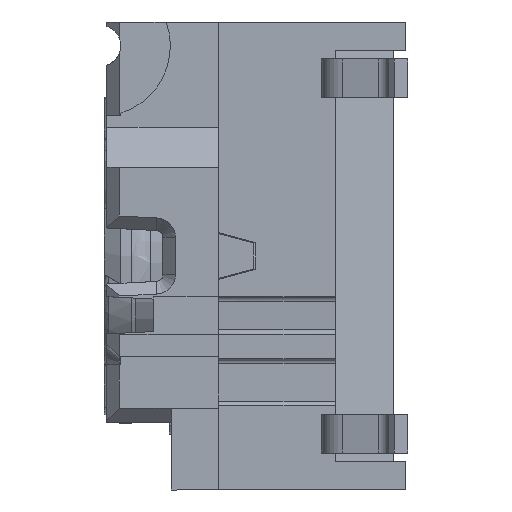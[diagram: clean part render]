
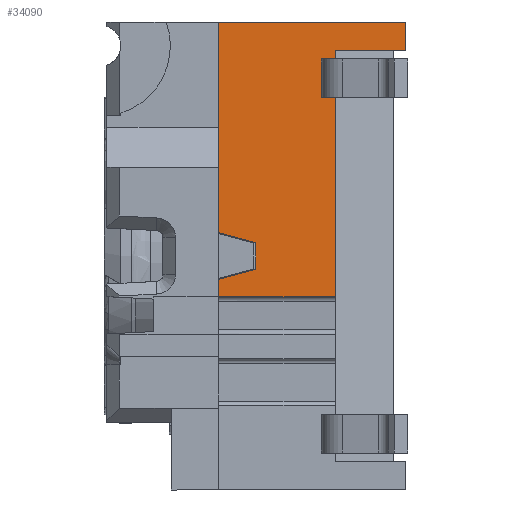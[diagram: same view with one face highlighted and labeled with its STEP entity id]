
A CAD part, left-side view. The second image highlights one B-rep face of the part: STEP entity #34090.
In plain terms, the highlighted planar face has unit normal (-1, 0, 0).
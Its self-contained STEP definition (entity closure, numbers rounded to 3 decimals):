
#33492=CARTESIAN_POINT('',(-5.,-0.286,0.8));
#33493=VERTEX_POINT('',#33492);
#33500=CARTESIAN_POINT('',(-5.,0.286,0.8));
#33501=VERTEX_POINT('',#33500);
#33502=CARTESIAN_POINT('',(-5.,0.286,0.8));
#33503=DIRECTION('',(0.0,-1.0,0.0));
#33504=VECTOR('',#33503,0.571);
#33505=LINE('',#33502,#33504);
#33506=EDGE_CURVE('',#33501,#33493,#33505,.T.);
#33595=CARTESIAN_POINT('',(-5.0,0.5,0.0));
#33596=VERTEX_POINT('',#33595);
#33603=CARTESIAN_POINT('',(-5.,5.0,0.0));
#33604=VERTEX_POINT('',#33603);
#33605=CARTESIAN_POINT('',(-5.0,0.5,0.0));
#33606=DIRECTION('',(0.0,1.0,0.0));
#33607=VECTOR('',#33606,4.5);
#33608=LINE('',#33605,#33607);
#33609=EDGE_CURVE('',#33596,#33604,#33608,.T.);
#33815=CARTESIAN_POINT('',(-5.,3.39,2.2));
#33816=VERTEX_POINT('',#33815);
#33823=CARTESIAN_POINT('',(-5.,3.39,2.5));
#33824=VERTEX_POINT('',#33823);
#33825=CARTESIAN_POINT('',(-5.,3.39,2.5));
#33826=DIRECTION('',(0.0,0.0,-1.0));
#33827=VECTOR('',#33826,0.3);
#33828=LINE('',#33825,#33827);
#33829=EDGE_CURVE('',#33824,#33816,#33828,.T.);
#33853=CARTESIAN_POINT('',(-5.,4.21,2.2));
#33854=VERTEX_POINT('',#33853);
#33861=CARTESIAN_POINT('',(-5.,3.39,2.2));
#33862=DIRECTION('',(0.0,1.0,0.0));
#33863=VECTOR('',#33862,0.82);
#33864=LINE('',#33861,#33863);
#33865=EDGE_CURVE('',#33816,#33854,#33864,.T.);
#33884=CARTESIAN_POINT('',(-5.,4.21,2.5));
#33885=VERTEX_POINT('',#33884);
#33892=CARTESIAN_POINT('',(-5.,4.21,2.2));
#33893=DIRECTION('',(0.0,0.0,1.0));
#33894=VECTOR('',#33893,0.3);
#33895=LINE('',#33892,#33894);
#33896=EDGE_CURVE('',#33854,#33885,#33895,.T.);
#33932=CARTESIAN_POINT('',(-5.0,-0.87,2.5));
#33933=VERTEX_POINT('',#33932);
#33934=CARTESIAN_POINT('',(-5.,-0.87,2.5));
#33935=DIRECTION('',(0.0,1.0,0.0));
#33936=VECTOR('',#33935,4.26);
#33937=LINE('',#33934,#33936);
#33938=EDGE_CURVE('',#33933,#33824,#33937,.T.);
#34019=CARTESIAN_POINT('',(-5.,-5.,0.0));
#34020=DIRECTION('',(-1.0,0.0,0.0));
#34021=DIRECTION('',(0.0,0.0,1.0));
#34022=AXIS2_PLACEMENT_3D('',#34019,#34020,#34021);
#34023=PLANE('',#34022);
#34024=ORIENTED_EDGE('',*,*,#33829,.T.);
#34025=ORIENTED_EDGE('',*,*,#33865,.T.);
#34026=ORIENTED_EDGE('',*,*,#33896,.T.);
#34027=CARTESIAN_POINT('',(-5.0,4.4,2.5));
#34028=VERTEX_POINT('',#34027);
#34029=CARTESIAN_POINT('',(-5.,4.21,2.5));
#34030=DIRECTION('',(0.0,1.0,0.0));
#34031=VECTOR('',#34030,0.19);
#34032=LINE('',#34029,#34031);
#34033=EDGE_CURVE('',#33885,#34028,#34032,.T.);
#34034=ORIENTED_EDGE('',*,*,#34033,.T.);
#34035=CARTESIAN_POINT('',(-5.,4.4,4.0));
#34036=VERTEX_POINT('',#34035);
#34037=CARTESIAN_POINT('',(-5.,4.4,2.5));
#34038=DIRECTION('',(0.0,0.0,1.0));
#34039=VECTOR('',#34038,1.5);
#34040=LINE('',#34037,#34039);
#34041=EDGE_CURVE('',#34028,#34036,#34040,.T.);
#34042=ORIENTED_EDGE('',*,*,#34041,.T.);
#34043=CARTESIAN_POINT('',(-5.,5.,4.0));
#34044=VERTEX_POINT('',#34043);
#34045=CARTESIAN_POINT('',(-5.,4.4,4.0));
#34046=DIRECTION('',(0.0,1.0,0.0));
#34047=VECTOR('',#34046,0.6);
#34048=LINE('',#34045,#34047);
#34049=EDGE_CURVE('',#34036,#34044,#34048,.T.);
#34050=ORIENTED_EDGE('',*,*,#34049,.T.);
#34051=CARTESIAN_POINT('',(-5.,5.0,0.0));
#34052=DIRECTION('',(0.0,0.0,1.0));
#34053=VECTOR('',#34052,4.0);
#34054=LINE('',#34051,#34053);
#34055=EDGE_CURVE('',#33604,#34044,#34054,.T.);
#34056=ORIENTED_EDGE('',*,*,#34055,.F.);
#34057=ORIENTED_EDGE('',*,*,#33609,.F.);
#34058=CARTESIAN_POINT('',(-5.0,0.5,0.));
#34059=DIRECTION('',(0.0,-0.259,0.966));
#34060=VECTOR('',#34059,0.828);
#34061=LINE('',#34058,#34060);
#34062=EDGE_CURVE('',#33596,#33501,#34061,.T.);
#34063=ORIENTED_EDGE('',*,*,#34062,.T.);
#34064=ORIENTED_EDGE('',*,*,#33506,.T.);
#34065=CARTESIAN_POINT('',(-5.0,-0.5,0.0));
#34066=VERTEX_POINT('',#34065);
#34067=CARTESIAN_POINT('',(-5.,-0.286,0.8));
#34068=DIRECTION('',(0.0,-0.259,-0.966));
#34069=VECTOR('',#34068,0.828);
#34070=LINE('',#34067,#34069);
#34071=EDGE_CURVE('',#33493,#34066,#34070,.T.);
#34072=ORIENTED_EDGE('',*,*,#34071,.T.);
#34073=CARTESIAN_POINT('',(-5.0,-0.87,0.0));
#34074=VERTEX_POINT('',#34073);
#34075=CARTESIAN_POINT('',(-5.0,-0.87,0.0));
#34076=DIRECTION('',(0.0,1.0,0.0));
#34077=VECTOR('',#34076,0.37);
#34078=LINE('',#34075,#34077);
#34079=EDGE_CURVE('',#34074,#34066,#34078,.T.);
#34080=ORIENTED_EDGE('',*,*,#34079,.F.);
#34081=CARTESIAN_POINT('',(-5.0,-0.87,0.0));
#34082=DIRECTION('',(0.0,0.0,1.0));
#34083=VECTOR('',#34082,2.5);
#34084=LINE('',#34081,#34083);
#34085=EDGE_CURVE('',#34074,#33933,#34084,.T.);
#34086=ORIENTED_EDGE('',*,*,#34085,.T.);
#34087=ORIENTED_EDGE('',*,*,#33938,.T.);
#34088=EDGE_LOOP('',(#34024,#34025,#34026,#34034,#34042,#34050,#34056,#34057,#34063,#34064,#34072,#34080,#34086,#34087));
#34089=FACE_OUTER_BOUND('',#34088,.T.);
#34090=ADVANCED_FACE('',(#34089),#34023,.T.);
